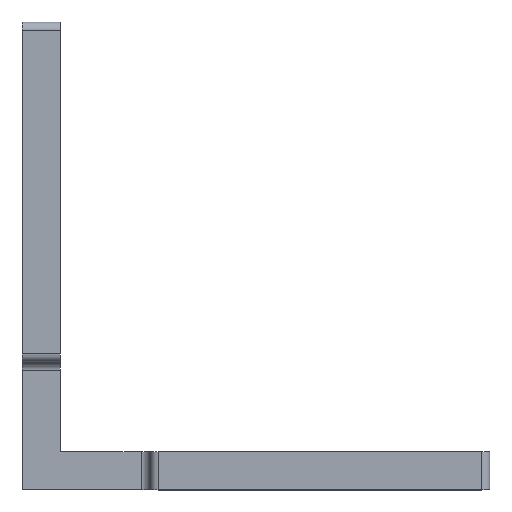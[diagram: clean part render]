
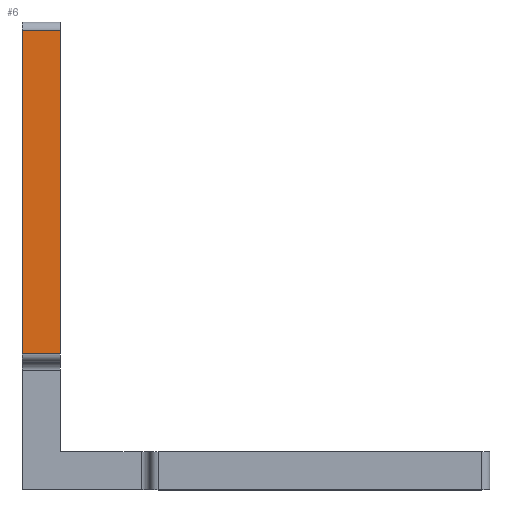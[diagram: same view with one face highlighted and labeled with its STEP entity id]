
A CAD part, top view. The second image highlights one B-rep face of the part: STEP entity #6.
In plain terms, the highlighted planar face has unit normal (0, 0, 1).
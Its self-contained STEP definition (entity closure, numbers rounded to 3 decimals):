
#6 = ADVANCED_FACE ( 'NONE', ( #856 ), #833, .T. ) ;
#12 = VECTOR ( 'NONE', #146, 1000. ) ;
#17 = VECTOR ( 'NONE', #828, 1000. ) ;
#60 = CARTESIAN_POINT ( 'NONE',  ( -17.914, -24.414, 13.8 ) ) ;
#66 = DIRECTION ( 'NONE',  ( 1., 0., 0. ) ) ;
#97 = VECTOR ( 'NONE', #66, 1000. ) ;
#112 = EDGE_CURVE ( 'NONE', #504, #1215, #978, .T. ) ;
#146 = DIRECTION ( 'NONE',  ( 0., -1., 0. ) ) ;
#215 = ORIENTED_EDGE ( 'NONE', *, *, #112, .F. ) ;
#230 = EDGE_CURVE ( 'NONE', #529, #1215, #340, .T. ) ;
#258 = DIRECTION ( 'NONE',  ( 0., 0., 1. ) ) ;
#268 = CARTESIAN_POINT ( 'NONE',  ( -13.414, -24.414, 13.8 ) ) ;
#340 = LINE ( 'NONE', #560, #97 ) ;
#347 = CARTESIAN_POINT ( 'NONE',  ( 0., 0., 13.8 ) ) ;
#432 = LINE ( 'NONE', #1016, #949 ) ;
#450 = EDGE_LOOP ( 'NONE', ( #886, #1063, #215, #565 ) ) ;
#465 = VERTEX_POINT ( 'NONE', #1037 ) ;
#504 = VERTEX_POINT ( 'NONE', #1114 ) ;
#516 = EDGE_CURVE ( 'NONE', #465, #529, #1013, .T. ) ;
#529 = VERTEX_POINT ( 'NONE', #60 ) ;
#560 = CARTESIAN_POINT ( 'NONE',  ( -13.414, -24.414, 13.8 ) ) ;
#565 = ORIENTED_EDGE ( 'NONE', *, *, #922, .T. ) ;
#638 = DIRECTION ( 'NONE',  ( -1., 0., 0. ) ) ;
#733 = CARTESIAN_POINT ( 'NONE',  ( -13.414, 0., 13.8 ) ) ;
#828 = DIRECTION ( 'NONE',  ( 0., -1., 0. ) ) ;
#833 = PLANE ( 'NONE',  #1012 ) ;
#856 = FACE_OUTER_BOUND ( 'NONE', #450, .T. ) ;
#886 = ORIENTED_EDGE ( 'NONE', *, *, #516, .T. ) ;
#922 = EDGE_CURVE ( 'NONE', #504, #465, #432, .T. ) ;
#949 = VECTOR ( 'NONE', #638, 1000. ) ;
#978 = LINE ( 'NONE', #733, #12 ) ;
#1012 = AXIS2_PLACEMENT_3D ( 'NONE', #347, #258, #1123 ) ;
#1013 = LINE ( 'NONE', #1020, #17 ) ;
#1016 = CARTESIAN_POINT ( 'NONE',  ( 0., 13.586, 13.8 ) ) ;
#1020 = CARTESIAN_POINT ( 'NONE',  ( -17.914, 0., 13.8 ) ) ;
#1037 = CARTESIAN_POINT ( 'NONE',  ( -17.914, 13.586, 13.8 ) ) ;
#1063 = ORIENTED_EDGE ( 'NONE', *, *, #230, .T. ) ;
#1114 = CARTESIAN_POINT ( 'NONE',  ( -13.414, 13.586, 13.8 ) ) ;
#1123 = DIRECTION ( 'NONE',  ( 1., 0., 0. ) ) ;
#1215 = VERTEX_POINT ( 'NONE', #268 ) ;
